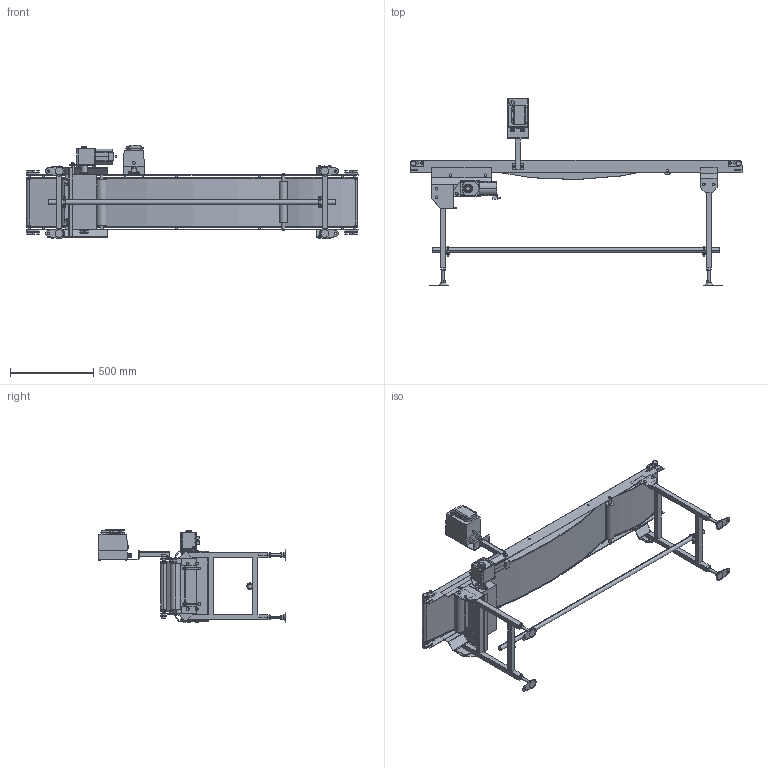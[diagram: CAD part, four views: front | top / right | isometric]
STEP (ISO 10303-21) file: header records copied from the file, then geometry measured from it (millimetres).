
FILE_DESCRIPTION (( 'STEP AP214' ), '1' );
FILE_NAME ('FNS-C-HS-309-300-200-L-IV-100.STEP', '2024-07-04T05:06:20', ( '' ), ( '' ), 'SwSTEP 2.0', 'SolidWorks 2017', '' );
FILE_SCHEMA (( 'AUTOMOTIVE_DESIGN' ));
Length unit declared in the file: millimetre
Products named in the file (1): FNS-C-HS-309-300-200-L-IV-100
Bounding box: 2000 x 1128.5 x 560.5 mm (x, y, z)
Volume: 71459909.5 mm3; surface area: 4448895.4 mm2
Topology: 35 solids, 36 shells, 1826 faces, 4406 edges, 2847 vertices
Faces by surface type: plane 1143, cylinder 608, cone 53, bspline 14, torus 8
Entity records: 55602 total; most frequent: CARTESIAN_POINT 11399, DIRECTION 9331, ORIENTED_EDGE 8808, EDGE_CURVE 4404, AXIS2_PLACEMENT_3D 3217, LINE 2897, VECTOR 2897, VERTEX_POINT 2847
